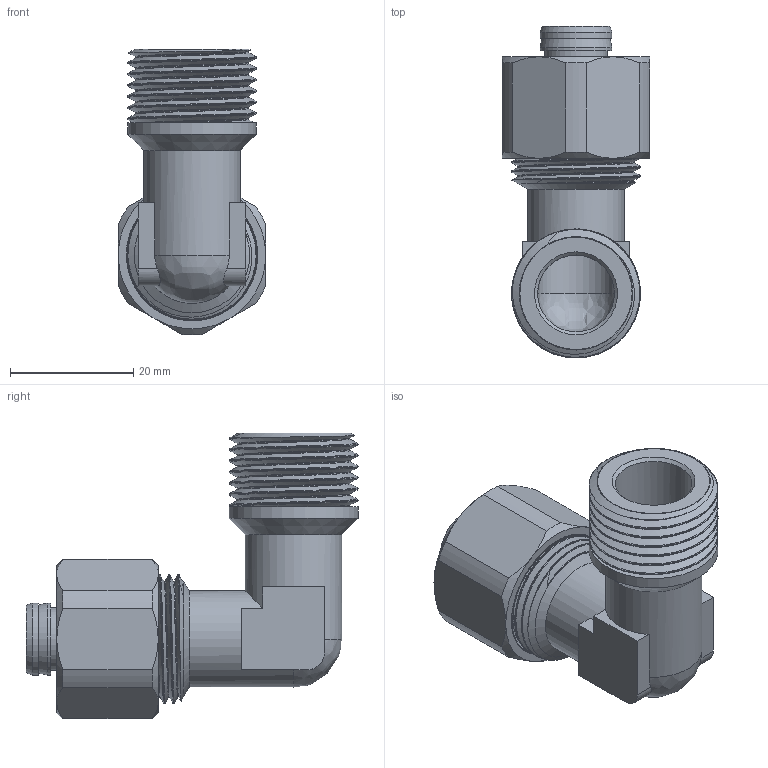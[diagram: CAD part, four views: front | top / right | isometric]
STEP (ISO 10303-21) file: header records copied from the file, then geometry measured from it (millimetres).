
FILE_DESCRIPTION(/* description */ (''),/* implementation_level */ '2;1');
FILE_NAME(/* name */ 'C:\Users\Doom\Desktop\Фадотех\Обжим\RFU21 16X12M 30.03.2020\RFU21 16X12M 30.03.2020.stp',/* time_stamp */ '2022-06-01T16:43:29+03:00',/* author */ ('Doom'),/* organization */ (''),/* preprocessor_version */ 'ST-DEVELOPER v18',/* originating_system */ 'Autodesk Inventor 2020',/* authorisation */ '');
FILE_SCHEMA (('AUTOMOTIVE_DESIGN { 1 0 10303 214 3 1 1 }'));
Length unit declared in the file: millimetre
Products named in the file (5): RFU21 16X12M 30.03.2020; RFU21 16X12M 30.03.2020_1; FADO MC Nut-16 15.02.2020; FADO MC Socket-16 15.02.2020; Olive 16 15.02.2020
Assembly tree (4 placements, depth 2):
  RFU21 16X12M 30.03.2020
    RFU21 16X12M 30.03.2020_1
    FADO MC Nut-16 15.02.2020
    FADO MC Socket-16 15.02.2020
    Olive 16 15.02.2020
Bounding box: 24 x 53.98 x 46.49 mm (x, y, z)
Volume: 12286.7 mm3; surface area: 18910.7 mm2
Topology: 7 solids, 7 shells, 550 faces, 1506 edges, 1010 vertices
Faces by surface type: bspline 258, plane 173, cylinder 90, cone 29
Full cylindrical faces by diameter (mm): 8.5 x1, 10.2 x2, 11.7 x4, 12.5 x2, 12.6 x1, 14.7 x2, 15.5 x1, 15.7 x2, 16.5 x1, 18.26 x2, 18.776 x2, 19 x1, 19.5 x1, 19.867 x12, 20.95 x6, 21 x5, 21.35 x2
Entity records: 34829 total; most frequent: CARTESIAN_POINT 22418, ORIENTED_EDGE 3000, DIRECTION 1754, EDGE_CURVE 1500, VERTEX_POINT 1008, EDGE_LOOP 606, LINE 602, VECTOR 602
